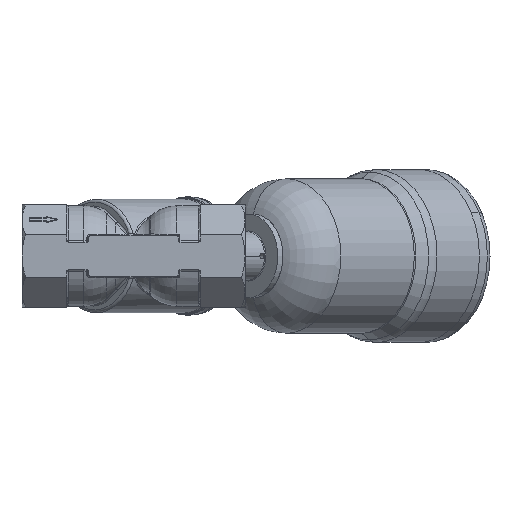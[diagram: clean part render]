
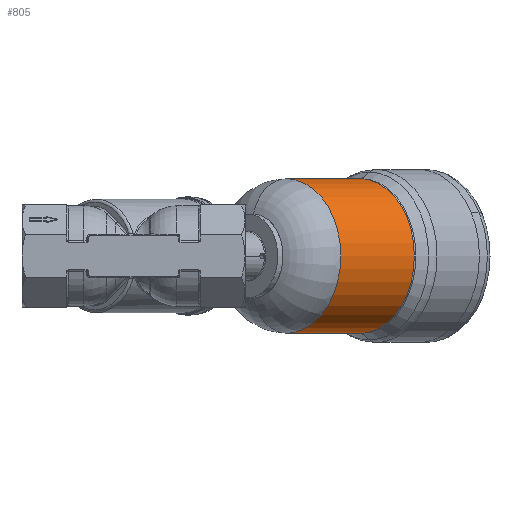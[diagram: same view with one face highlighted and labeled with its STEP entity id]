
A CAD part, front view. The second image highlights one B-rep face of the part: STEP entity #805.
In plain terms, the highlighted cylindrical face has radius 41.5 mm (diameter 83 mm), a partial arc.
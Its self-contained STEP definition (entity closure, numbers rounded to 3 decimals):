
#805 = ADVANCED_FACE ( 'NONE', ( #15343 ), #5680, .T. ) ;
#990 = VERTEX_POINT ( 'NONE', #8680 ) ;
#991 = CARTESIAN_POINT ( 'NONE',  ( 122.476, 149.476, 41.5 ) ) ;
#1122 = DIRECTION ( 'NONE',  ( 0., 0., 1. ) ) ;
#1285 = LINE ( 'NONE', #991, #4137 ) ;
#1348 = ORIENTED_EDGE ( 'NONE', *, *, #1683, .T. ) ;
#1683 = EDGE_CURVE ( 'NONE', #6176, #6659, #1285, .T. ) ;
#1981 = CARTESIAN_POINT ( 'NONE',  ( 122.476, 149.476, -41.5 ) ) ;
#2218 = AXIS2_PLACEMENT_3D ( 'NONE', #5156, #13585, #6377 ) ;
#2225 = DIRECTION ( 'NONE',  ( -0.707, -0.707, 0. ) ) ;
#3529 = EDGE_CURVE ( 'NONE', #990, #6659, #8506, .T. ) ;
#4137 = VECTOR ( 'NONE', #2225, 1000. ) ;
#4173 = CIRCLE ( 'NONE', #6937, 41.5 ) ;
#4526 = DIRECTION ( 'NONE',  ( -0.707, -0.707, 0. ) ) ;
#5156 = CARTESIAN_POINT ( 'NONE',  ( 82.171, 109.171, 0. ) ) ;
#5332 = ORIENTED_EDGE ( 'NONE', *, *, #5452, .T. ) ;
#5452 = EDGE_CURVE ( 'NONE', #15329, #6176, #4173, .T. ) ;
#5640 = ORIENTED_EDGE ( 'NONE', *, *, #3529, .F. ) ;
#5680 = CYLINDRICAL_SURFACE ( 'NONE', #13748, 41.5 ) ;
#6176 = VERTEX_POINT ( 'NONE', #6997 ) ;
#6377 = DIRECTION ( 'NONE',  ( 0., 0., -1. ) ) ;
#6605 = EDGE_LOOP ( 'NONE', ( #5332, #1348, #5640, #11243 ) ) ;
#6659 = VERTEX_POINT ( 'NONE', #8359 ) ;
#6937 = AXIS2_PLACEMENT_3D ( 'NONE', #15652, #8385, #1122 ) ;
#6997 = CARTESIAN_POINT ( 'NONE',  ( 121.734, 148.734, 41.5 ) ) ;
#7469 = CARTESIAN_POINT ( 'NONE',  ( 121.734, 148.734, -41.5 ) ) ;
#8359 = CARTESIAN_POINT ( 'NONE',  ( 82.171, 109.171, 41.5 ) ) ;
#8385 = DIRECTION ( 'NONE',  ( -0.707, -0.707, 0. ) ) ;
#8506 = CIRCLE ( 'NONE', #2218, 41.5 ) ;
#8680 = CARTESIAN_POINT ( 'NONE',  ( 82.171, 109.171, -41.5 ) ) ;
#9312 = EDGE_CURVE ( 'NONE', #15329, #990, #9805, .T. ) ;
#9805 = LINE ( 'NONE', #1981, #15493 ) ;
#10144 = CARTESIAN_POINT ( 'NONE',  ( 122.476, 149.476, 0. ) ) ;
#11243 = ORIENTED_EDGE ( 'NONE', *, *, #9312, .F. ) ;
#12570 = DIRECTION ( 'NONE',  ( -0.707, -0.707, 0. ) ) ;
#13585 = DIRECTION ( 'NONE',  ( -0.707, -0.707, 0. ) ) ;
#13748 = AXIS2_PLACEMENT_3D ( 'NONE', #10144, #12570, #13801 ) ;
#13801 = DIRECTION ( 'NONE',  ( 0., 0., -1. ) ) ;
#15329 = VERTEX_POINT ( 'NONE', #7469 ) ;
#15343 = FACE_OUTER_BOUND ( 'NONE', #6605, .T. ) ;
#15493 = VECTOR ( 'NONE', #4526, 1000. ) ;
#15652 = CARTESIAN_POINT ( 'NONE',  ( 121.734, 148.734, 0. ) ) ;
